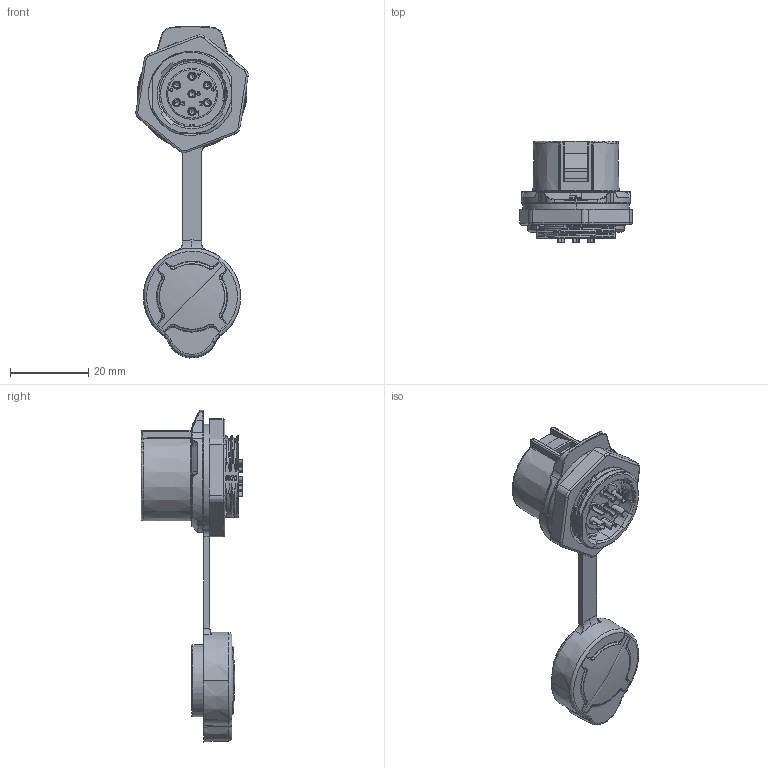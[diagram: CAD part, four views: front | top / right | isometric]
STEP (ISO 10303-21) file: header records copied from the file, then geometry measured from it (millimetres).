
FILE_DESCRIPTION (( 'STEP AP203' ), '1' );
FILE_NAME ('LP-20-J07SX-02-171.STEP', '2023-11-27T09:46:25', ( 'Windows 蚚誧' ), ( 'Organization' ), 'SwSTEP 2.0', 'SolidWorks 2017', '' );
FILE_SCHEMA (( 'CONFIG_CONTROL_DESIGN' ));
Length unit declared in the file: millimetre
Products named in the file (1): LP-20-J07SX-02-171
Bounding box: 28.79 x 26.1 x 85.11 mm (x, y, z)
Volume: 11089.9 mm3; surface area: 11558.1 mm2
Topology: 1 solids, 2 shells, 1187 faces, 3306 edges, 2084 vertices
Faces by surface type: plane 415, bspline 377, cylinder 237, cone 104, torus 48, sphere 6
Entity records: 64915 total; most frequent: CARTESIAN_POINT 37595, ORIENTED_EDGE 6522, DIRECTION 4580, EDGE_CURVE 3261, VERTEX_POINT 2085, AXIS2_PLACEMENT_3D 1650, EDGE_LOOP 1286, LINE 1280
